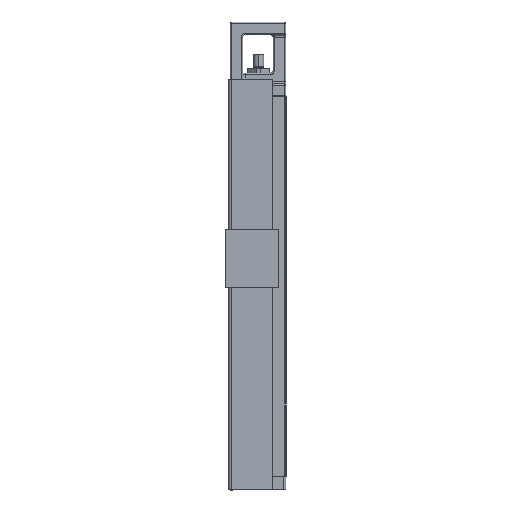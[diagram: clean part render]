
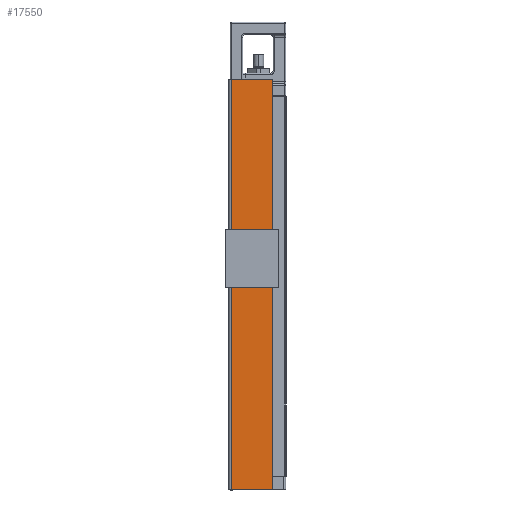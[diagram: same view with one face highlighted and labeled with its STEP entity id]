
A CAD part, left-side view. The second image highlights one B-rep face of the part: STEP entity #17550.
In plain terms, the highlighted planar face has unit normal (-1, 0, 0).
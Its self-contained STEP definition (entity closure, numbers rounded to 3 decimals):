
#1441 = EDGE_CURVE ( 'NONE', #21567, #25151, #21713, .T. ) ;
#4518 = DIRECTION ( 'NONE',  ( 0., 0., -1. ) ) ;
#7081 = LINE ( 'NONE', #37317, #56166 ) ;
#7499 = ORIENTED_EDGE ( 'NONE', *, *, #1441, .F. ) ;
#7693 = CARTESIAN_POINT ( 'NONE',  ( -51., 43.5, 13.5 ) ) ;
#11147 = DIRECTION ( 'NONE',  ( -1., 0., 0. ) ) ;
#13775 = AXIS2_PLACEMENT_3D ( 'NONE', #39171, #11147, #43835 ) ;
#15405 = VECTOR ( 'NONE', #59062, 1000. ) ;
#15568 = LINE ( 'NONE', #40742, #15405 ) ;
#15627 = PLANE ( 'NONE',  #13775 ) ;
#16901 = ORIENTED_EDGE ( 'NONE', *, *, #46214, .T. ) ;
#17550 = ADVANCED_FACE ( 'NONE', ( #26605 ), #15627, .T. ) ;
#19674 = ORIENTED_EDGE ( 'NONE', *, *, #29644, .T. ) ;
#21094 = CARTESIAN_POINT ( 'NONE',  ( -51., 44.5, 13.5 ) ) ;
#21567 = VERTEX_POINT ( 'NONE', #7693 ) ;
#21713 = LINE ( 'NONE', #21094, #22302 ) ;
#22302 = VECTOR ( 'NONE', #54360, 1000. ) ;
#24265 = VERTEX_POINT ( 'NONE', #41540 ) ;
#25151 = VERTEX_POINT ( 'NONE', #46744 ) ;
#26605 = FACE_OUTER_BOUND ( 'NONE', #46189, .T. ) ;
#27640 = DIRECTION ( 'NONE',  ( 0., -1., 0. ) ) ;
#29644 = EDGE_CURVE ( 'NONE', #30813, #25151, #15568, .T. ) ;
#30813 = VERTEX_POINT ( 'NONE', #58264 ) ;
#37317 = CARTESIAN_POINT ( 'NONE',  ( -51., 43.5, -150.8 ) ) ;
#38646 = VECTOR ( 'NONE', #27640, 1000. ) ;
#39171 = CARTESIAN_POINT ( 'NONE',  ( -51., 48., -150.8 ) ) ;
#39232 = LINE ( 'NONE', #55599, #38646 ) ;
#40742 = CARTESIAN_POINT ( 'NONE',  ( -51., 11., -150.8 ) ) ;
#41540 = CARTESIAN_POINT ( 'NONE',  ( -51., 43.5, -311. ) ) ;
#43835 = DIRECTION ( 'NONE',  ( 0., 0., 1. ) ) ;
#46189 = EDGE_LOOP ( 'NONE', ( #59925, #19674, #7499, #16901 ) ) ;
#46214 = EDGE_CURVE ( 'NONE', #21567, #24265, #7081, .T. ) ;
#46744 = CARTESIAN_POINT ( 'NONE',  ( -51., 11., 13.5 ) ) ;
#48515 = EDGE_CURVE ( 'NONE', #24265, #30813, #39232, .T. ) ;
#54360 = DIRECTION ( 'NONE',  ( 0., -1., 0. ) ) ;
#55599 = CARTESIAN_POINT ( 'NONE',  ( -51., 22., -311. ) ) ;
#56166 = VECTOR ( 'NONE', #4518, 1000. ) ;
#58264 = CARTESIAN_POINT ( 'NONE',  ( -51., 11., -311. ) ) ;
#59062 = DIRECTION ( 'NONE',  ( 0., 0., 1. ) ) ;
#59925 = ORIENTED_EDGE ( 'NONE', *, *, #48515, .T. ) ;
